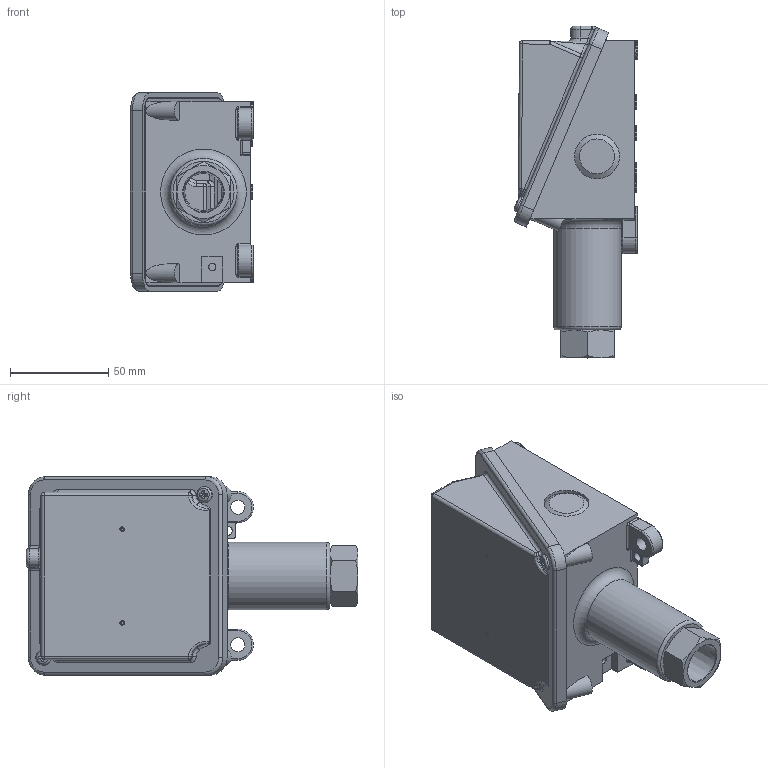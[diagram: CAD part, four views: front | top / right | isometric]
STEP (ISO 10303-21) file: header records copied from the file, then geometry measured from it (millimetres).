
FILE_DESCRIPTION (( 'STEP AP214' ), '1' );
FILE_NAME ('H100-190_194, 490_494_V2.STEP', '2025-02-28T13:54:54', ( '' ), ( '' ), 'SwSTEP 2.0', 'SolidWorks 2023', '' );
FILE_SCHEMA (( 'AUTOMOTIVE_DESIGN' ));
Length unit declared in the file: inch
Products named in the file (1): H100-190_194, 490_494_V2
Bounding box: 62.62 x 168.68 x 100.84 mm (x, y, z)
Surface area: 56265.7 mm2 (no closed solid volume)
Topology: 0 solids, 6 shells, 252 faces, 629 edges, 381 vertices
Faces by surface type: cylinder 84, plane 83, torus 42, cone 19, bspline 14, sphere 10
Full cylindrical faces by diameter (mm): 1.321 x2, 3.797 x1, 4.763 x1, 7.112 x2, 7.937 x2, 7.938 x2, 8.179 x2, 9.525 x2, 22.733 x2, 34.131 x1
Entity records: 7842 total; most frequent: CARTESIAN_POINT 2136, DIRECTION 1238, ORIENTED_EDGE 1080, EDGE_CURVE 582, AXIS2_PLACEMENT_3D 506, VERTEX_POINT 376, EDGE_LOOP 317, FACE_OUTER_BOUND 285
